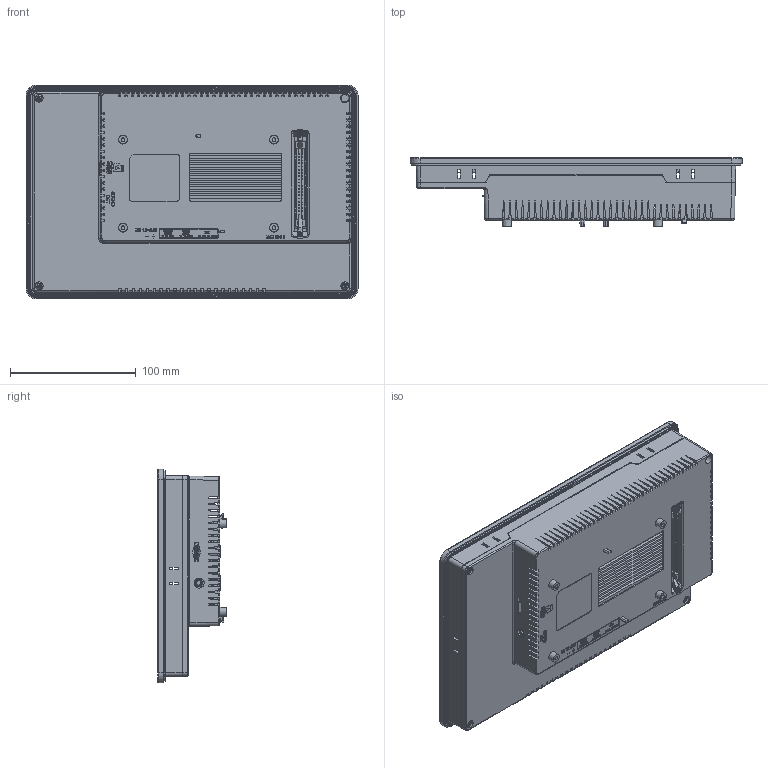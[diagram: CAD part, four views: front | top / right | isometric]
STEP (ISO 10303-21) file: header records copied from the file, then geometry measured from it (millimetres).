
FILE_DESCRIPTION (( 'STEP AP214' ), '1' );
FILE_NAME ('CPi-A102WR_rev1_蝶變瞪辨.STEP', '2023-05-26T10:06:56', ( '' ), ( '' ), 'SwSTEP 2.0', 'SolidWorks 2020', '' );
FILE_SCHEMA (( 'AUTOMOTIVE_DESIGN' ));
Length unit declared in the file: millimetre
Products named in the file (1): CPi-A102WR_rev1_蝶變瞪辨
Bounding box: 264 x 54.49 x 170 mm (x, y, z)
Surface area: 225941.7 mm2 (no closed solid volume)
Topology: 0 solids, 140 shells, 1688 faces, 7577 edges, 5808 vertices
Faces by surface type: plane 1263, cylinder 250, bspline 139, cone 17, torus 16, sphere 3
Full cylindrical faces by diameter (mm): 0.6 x3, 0.672 x1, 0.868 x1, 1.922 x1, 2 x3, 3 x4, 3.6 x1, 6 x1, 8 x1
Entity records: 106730 total; most frequent: CARTESIAN_POINT 32460, ORIENTED_EDGE 10749, DIRECTION 9518, EDGE_CURVE 7519, VERTEX_POINT 5787, VECTOR 5710, LINE 5710, EDGE_LOOP 1930
